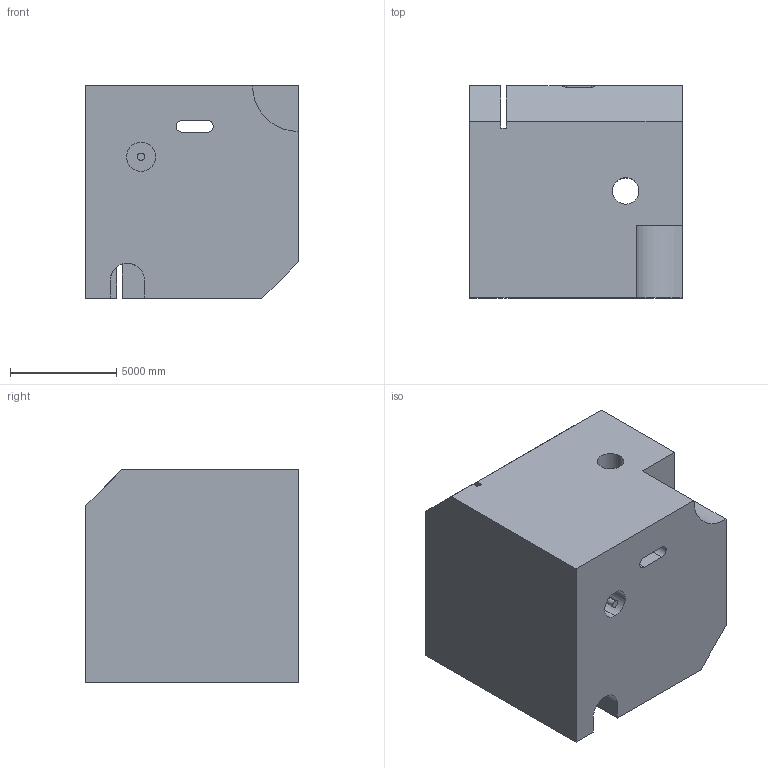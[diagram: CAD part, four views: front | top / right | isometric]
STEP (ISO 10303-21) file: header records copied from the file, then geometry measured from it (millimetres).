
FILE_DESCRIPTION (( 'STEP AP203' ), '1' );
FILE_NAME ('82.STEP', '2022-09-02T15:24:50', ( 'user' ), ( '' ), 'SwSTEP 2.0', 'SolidWorks 2021', '' );
FILE_SCHEMA (( 'CONFIG_CONTROL_DESIGN' ));
Length unit declared in the file: centimetre
Products named in the file (1): 82
Bounding box: 10000 x 10000 x 10000 mm (x, y, z)
Volume: 892431273576.2 mm3; surface area: 761846856.9 mm2
Topology: 1 solids, 1 shells, 39 faces, 108 edges, 72 vertices
Faces by surface type: plane 27, cylinder 12
Entity records: 1337 total; most frequent: CARTESIAN_POINT 226, ORIENTED_EDGE 216, DIRECTION 216, EDGE_CURVE 108, VECTOR 76, LINE 76, VERTEX_POINT 72, AXIS2_PLACEMENT_3D 70
